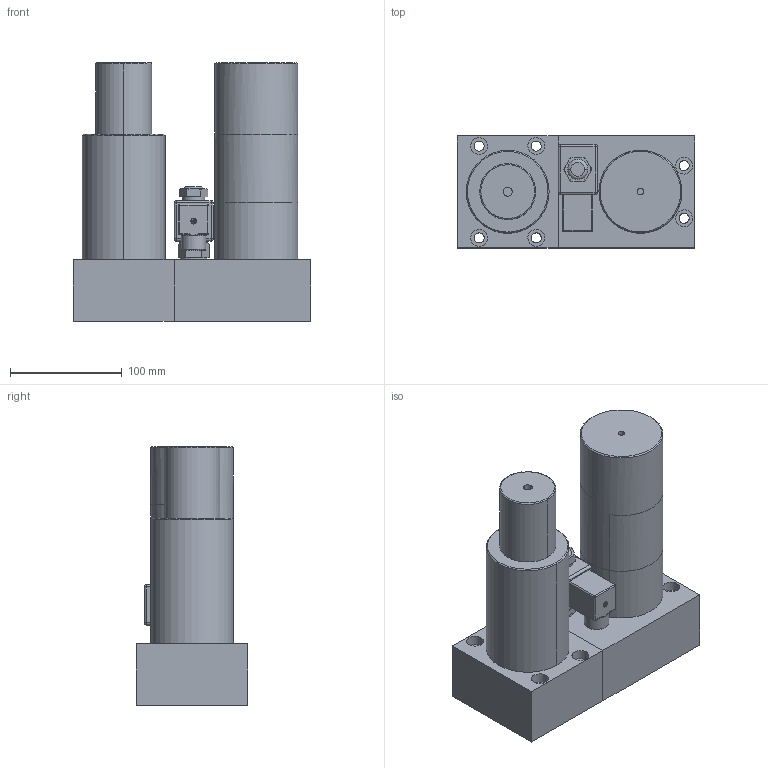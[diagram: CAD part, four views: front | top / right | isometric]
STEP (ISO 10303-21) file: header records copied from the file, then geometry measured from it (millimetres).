
FILE_DESCRIPTION(('CATIA V5 STEP Exchange'),'2;1');
FILE_NAME('W:\LIBRERIA TECAPRES®\DIBUJOS STRACK 2012\TPMC 2015\TPMC 3000\TPMCA 3000x63.stp','2015-11-03T16:32:31+00:00',('none'),('none'),'CATIA Version 5 Release 17 (IN-10)','CATIA V5 STEP AP203','none');
FILE_SCHEMA(('CONFIG_CONTROL_DESIGN'));
Length unit declared in the file: millimetre
Products named in the file (1): TPMCA 3000x63
Bounding box: 212 x 100 x 231 mm (x, y, z)
Volume: 2600339.2 mm3; surface area: 211095.4 mm2
Topology: 6 solids, 6 shells, 180 faces, 422 edges, 255 vertices
Faces by surface type: plane 67, cylinder 66, revolution 18, sphere 12, torus 9, cone 6, bspline 2
Entity records: 5473 total; most frequent: CARTESIAN_POINT 1685, ORIENTED_EDGE 816, DIRECTION 605, EDGE_CURVE 408, AXIS2_PLACEMENT_3D 292, VERTEX_POINT 255, EDGE_LOOP 207, ADVANCED_FACE 180
